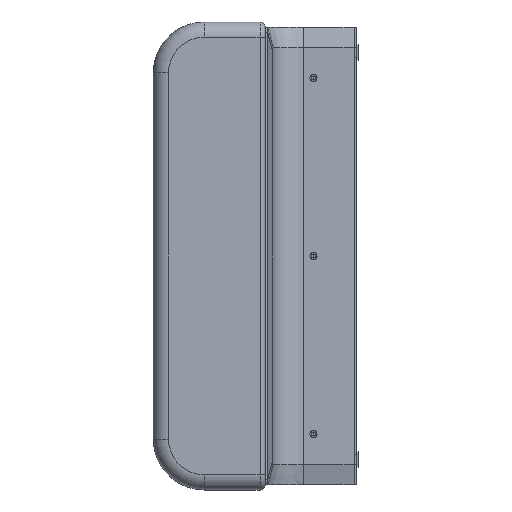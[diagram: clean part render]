
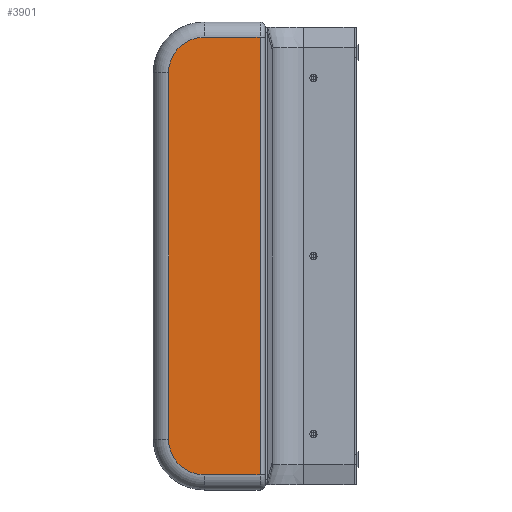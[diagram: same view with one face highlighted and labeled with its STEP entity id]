
A CAD part, left-side view. The second image highlights one B-rep face of the part: STEP entity #3901.
In plain terms, the highlighted planar face has unit normal (-1, 0, 0).
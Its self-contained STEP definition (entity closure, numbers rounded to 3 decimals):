
#36 = LINE ( 'NONE', #2616, #1629 ) ;
#486 = PLANE ( 'NONE',  #3289 ) ;
#624 = CARTESIAN_POINT ( 'NONE',  ( -615., 120., -20. ) ) ;
#647 = CARTESIAN_POINT ( 'NONE',  ( -615., 220., -20. ) ) ;
#653 = CARTESIAN_POINT ( 'NONE',  ( -615., 120., -90. ) ) ;
#826 = VERTEX_POINT ( 'NONE', #4913 ) ;
#978 = CARTESIAN_POINT ( 'NONE',  ( -615., 220., 10. ) ) ;
#1008 = EDGE_CURVE ( 'NONE', #3707, #826, #36, .T. ) ;
#1034 = VECTOR ( 'NONE', #7848, 1000. ) ;
#1617 = EDGE_CURVE ( 'NONE', #5773, #5023, #4931, .T. ) ;
#1629 = VECTOR ( 'NONE', #2536, 1000. ) ;
#1719 = DIRECTION ( 'NONE',  ( 0., 0., -1. ) ) ;
#1898 = DIRECTION ( 'NONE',  ( 0., 0., -1. ) ) ;
#1964 = ORIENTED_EDGE ( 'NONE', *, *, #3913, .T. ) ;
#2124 = VECTOR ( 'NONE', #1898, 1000. ) ;
#2258 = CARTESIAN_POINT ( 'NONE',  ( -615., 120., -810. ) ) ;
#2536 = DIRECTION ( 'NONE',  ( 0., 0., 1. ) ) ;
#2611 = EDGE_CURVE ( 'NONE', #3077, #5773, #7740, .T. ) ;
#2616 = CARTESIAN_POINT ( 'NONE',  ( -615., 10., -20. ) ) ;
#2626 = CARTESIAN_POINT ( 'NONE',  ( -615., 10., -880. ) ) ;
#3077 = VERTEX_POINT ( 'NONE', #624 ) ;
#3289 = AXIS2_PLACEMENT_3D ( 'NONE', #978, #5329, #5446 ) ;
#3639 = DIRECTION ( 'NONE',  ( 0., -1., 0. ) ) ;
#3707 = VERTEX_POINT ( 'NONE', #2626 ) ;
#3769 = DIRECTION ( 'NONE',  ( -1., 0., 0. ) ) ;
#3817 = AXIS2_PLACEMENT_3D ( 'NONE', #2258, #7346, #1719 ) ;
#3901 = ADVANCED_FACE ( 'NONE', ( #5976 ), #486, .F. ) ;
#3913 = EDGE_CURVE ( 'NONE', #5023, #5877, #4596, .T. ) ;
#3943 = CARTESIAN_POINT ( 'NONE',  ( -615., 190., -90. ) ) ;
#4097 = EDGE_LOOP ( 'NONE', ( #6062, #4552, #4323, #5758, #7494, #1964 ) ) ;
#4323 = ORIENTED_EDGE ( 'NONE', *, *, #6719, .T. ) ;
#4421 = CARTESIAN_POINT ( 'NONE',  ( -615., 190., 10. ) ) ;
#4552 = ORIENTED_EDGE ( 'NONE', *, *, #1008, .T. ) ;
#4596 = CIRCLE ( 'NONE', #3817, 70. ) ;
#4742 = CARTESIAN_POINT ( 'NONE',  ( -615., 120., -880. ) ) ;
#4913 = CARTESIAN_POINT ( 'NONE',  ( -615., 10., -20. ) ) ;
#4931 = LINE ( 'NONE', #4421, #2124 ) ;
#5023 = VERTEX_POINT ( 'NONE', #7402 ) ;
#5329 = DIRECTION ( 'NONE',  ( 1., 0., 0. ) ) ;
#5446 = DIRECTION ( 'NONE',  ( 0., 0., -1. ) ) ;
#5477 = LINE ( 'NONE', #7992, #6146 ) ;
#5758 = ORIENTED_EDGE ( 'NONE', *, *, #2611, .T. ) ;
#5773 = VERTEX_POINT ( 'NONE', #3943 ) ;
#5877 = VERTEX_POINT ( 'NONE', #4742 ) ;
#5976 = FACE_OUTER_BOUND ( 'NONE', #4097, .T. ) ;
#6062 = ORIENTED_EDGE ( 'NONE', *, *, #7182, .T. ) ;
#6146 = VECTOR ( 'NONE', #3639, 1000. ) ;
#6719 = EDGE_CURVE ( 'NONE', #826, #3077, #7273, .T. ) ;
#6929 = DIRECTION ( 'NONE',  ( 0., 0., -1. ) ) ;
#7182 = EDGE_CURVE ( 'NONE', #5877, #3707, #5477, .T. ) ;
#7273 = LINE ( 'NONE', #647, #1034 ) ;
#7346 = DIRECTION ( 'NONE',  ( -1., 0., 0. ) ) ;
#7402 = CARTESIAN_POINT ( 'NONE',  ( -615., 190., -810. ) ) ;
#7494 = ORIENTED_EDGE ( 'NONE', *, *, #1617, .T. ) ;
#7613 = AXIS2_PLACEMENT_3D ( 'NONE', #653, #3769, #6929 ) ;
#7740 = CIRCLE ( 'NONE', #7613, 70. ) ;
#7848 = DIRECTION ( 'NONE',  ( 0., 1., 0. ) ) ;
#7992 = CARTESIAN_POINT ( 'NONE',  ( -615., 220., -880. ) ) ;
